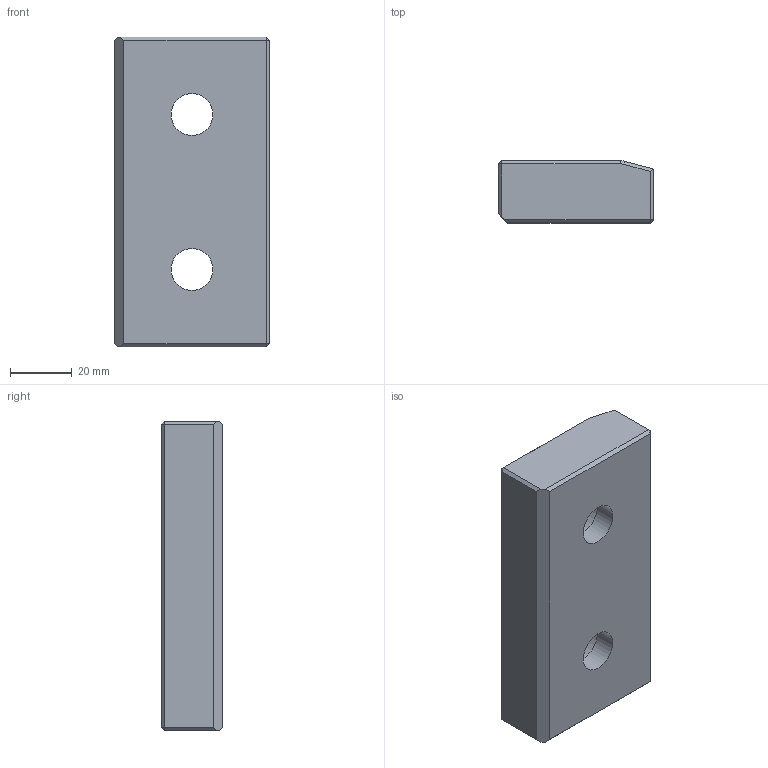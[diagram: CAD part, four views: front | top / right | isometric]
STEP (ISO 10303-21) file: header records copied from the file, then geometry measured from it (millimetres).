
FILE_DESCRIPTION(/* description */ ('Impex Ready, www.impex-ready.pl'),/* implementation_level */ '2;1');
FILE_NAME(/* name */ 'C:\Users\VIKKY\Nextcloud\SM\projekt 10 - części na stronę internetową\Pliki_3D_new\321 Płytki PG13\321 PG13_STEP\PG13.100050.ipt.step',/* time_stamp */ '2021-12-19T18:01:22+01:00',/* author */ ('SM'),/* organization */ (''),/* preprocessor_version */ 'ST-DEVELOPER v18.1',/* originating_system */ 'Autodesk Inventor 2021',/* authorisation */ '');
FILE_SCHEMA (('AUTOMOTIVE_DESIGN { 1 0 10303 214 3 1 1 }'));
Length unit declared in the file: millimetre
Products named in the file (1): PG13.100050
Bounding box: 50 x 20 x 100 mm (x, y, z)
Volume: 87742.3 mm3; surface area: 16863.2 mm2
Topology: 1 solids, 1 shells, 35 faces, 75 edges, 44 vertices
Faces by surface type: plane 26, cylinder 5, cone 4
Full cylindrical faces by diameter (mm): 13.5 x2, 20 x2
Entity records: 1023 total; most frequent: DIRECTION 163, CARTESIAN_POINT 155, ORIENTED_EDGE 150, EDGE_CURVE 75, LINE 59, VECTOR 59, AXIS2_PLACEMENT_3D 52, VERTEX_POINT 44
